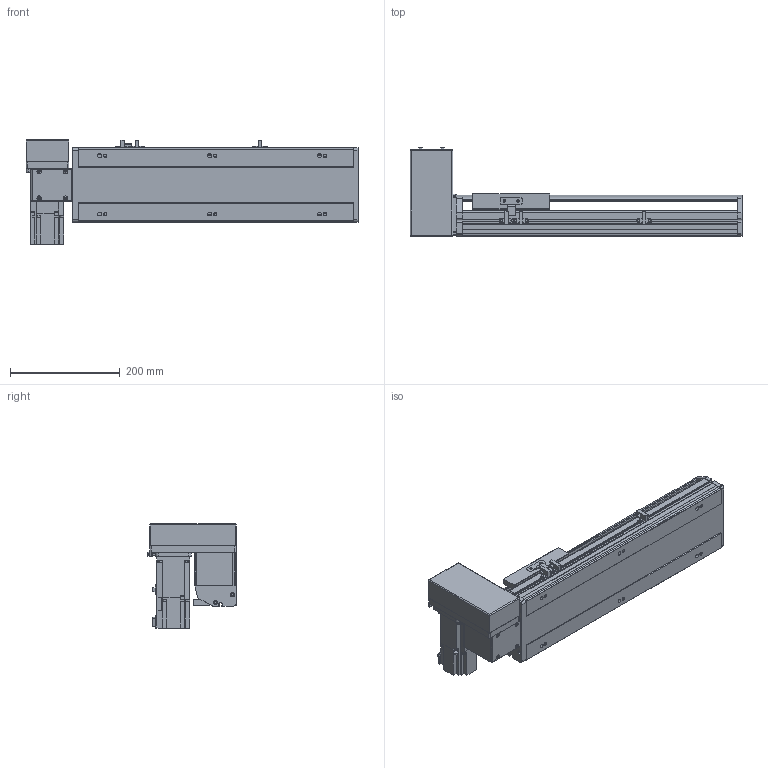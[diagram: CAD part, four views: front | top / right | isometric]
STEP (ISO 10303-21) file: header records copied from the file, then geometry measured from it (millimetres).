
FILE_DESCRIPTION( ( 'STEP AP214' ), '1' );
FILE_NAME( 'x:/temp/worker_4/temp/exporttempdir_2248_91_3MvAo/format_0/PBS140-P40-S250-RU-T40-C1-N(0).stp', '2022-06-07T05:52:46', ( 'License CC BY-ND 4.0' ), ( 'CADENAS' ), ' ', 'PARTsolutions', ' ' );
FILE_SCHEMA( ( 'AUTOMOTIVE_DESIGN { 1 0 10303 214 1 1 1 1 }' ) );
Length unit declared in the file: millimetre
Products named in the file (7): PBS140-P40-S250-RU-T40-C1-N(0); _PBS140-S250()_body; _PBS140T-RU_motors; _T40-p1; _PBS140_sliser; _PBS140_plant; _PBS140_sensor
Assembly tree (8 placements, depth 2):
  PBS140-P40-S250-RU-T40-C1-N(0)
    _PBS140-S250()_body
    _PBS140T-RU_motors
    _T40-p1
    _PBS140_sliser
    _PBS140_plant
    _PBS140_sensor  x3
Bounding box: 604 x 162.5 x 189.7 mm (x, y, z)
Volume: 3370627.6 mm3; surface area: 618911.2 mm2
Topology: 8 solids, 8 shells, 995 faces, 2636 edges, 1723 vertices
Faces by surface type: plane 662, cylinder 291, cone 32, sphere 8, torus 2
Full cylindrical faces by diameter (mm): 3.242 x4, 4 x2, 4.134 x4, 4.4 x8, 4.5 x2, 4.8 x4, 4.917 x14, 5.5 x7, 6 x2, 7 x8, 7.5 x8, 8 x12, 8.5 x4, 10.5 x6, 14 x1, 30 x2, 50 x2
Entity records: 36079 total; most frequent: CARTESIAN_POINT 5411, DIRECTION 4847, ORIENTED_EDGE 4612, EDGE_CURVE 2306, AXIS2_PLACEMENT_3D 1657, VERTEX_POINT 1581, LINE 1533, VECTOR 1533
